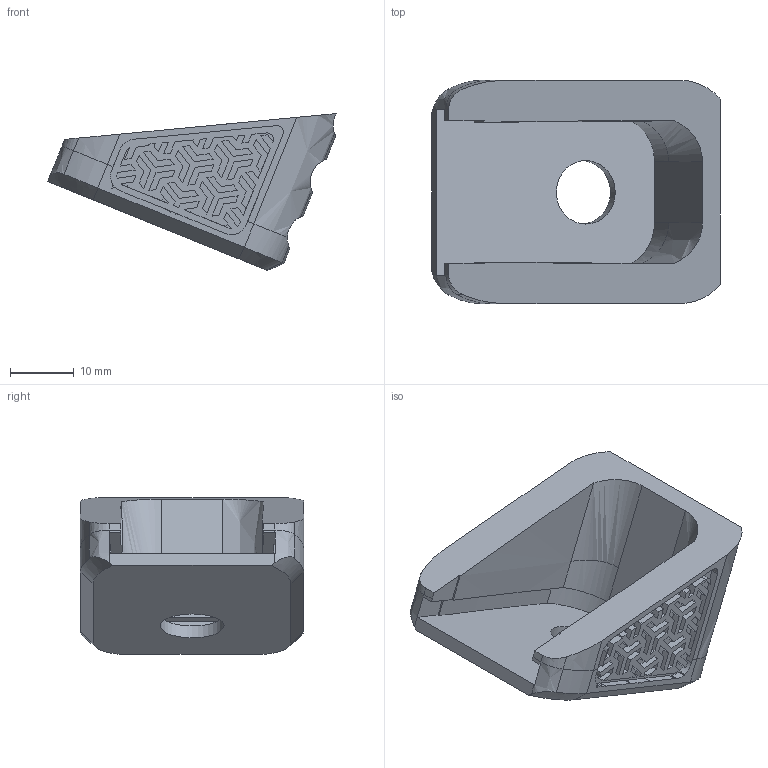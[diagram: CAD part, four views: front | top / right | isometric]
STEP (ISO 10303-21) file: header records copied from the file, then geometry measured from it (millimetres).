
FILE_DESCRIPTION(/* description */ (''),/* implementation_level */ '2;1');
FILE_NAME(/* name */ 'D:/Pew Pews/FGC-9_MkII_Stingray_Edition/Stingray Edition/.step files/4 - Magazine/Base Plate.step',/* time_stamp */ '2022-05-12T10:51:25-06:00',/* author */ (''),/* organization */ (''),/* preprocessor_version */ 'ST-DEVELOPER v18.1',/* originating_system */ 'Autodesk Translation Framework v10.10.0.1391',/* authorisation */ '');
FILE_SCHEMA (('AUTOMOTIVE_DESIGN { 1 0 10303 214 3 1 1 }'));
Length unit declared in the file: millimetre
Products named in the file (1): end plate
Bounding box: 45.4 x 35.13 x 24.67 mm (x, y, z)
Volume: 10442.8 mm3; surface area: 7445.2 mm2
Topology: 1 solids, 1 shells, 527 faces, 1454 edges, 961 vertices
Faces by surface type: plane 451, bspline 44, cylinder 32
Full cylindrical faces by diameter (mm): 10 x1
Entity records: 23983 total; most frequent: CARTESIAN_POINT 10914, ORIENTED_EDGE 2908, DIRECTION 2309, EDGE_CURVE 1454, LINE 1233, VECTOR 1233, VERTEX_POINT 961, EDGE_LOOP 561
